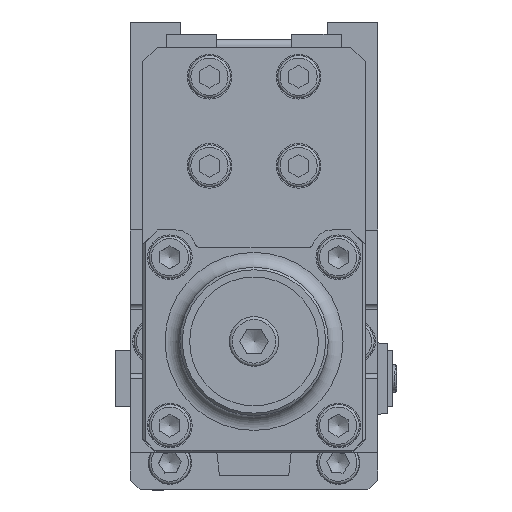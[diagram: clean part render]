
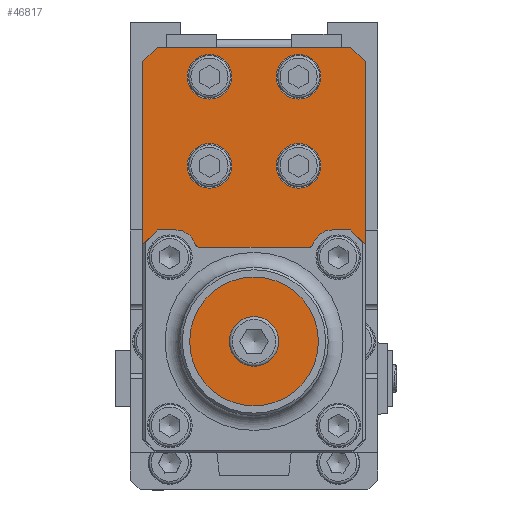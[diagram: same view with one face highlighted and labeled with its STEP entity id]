
A CAD part, front view. The second image highlights one B-rep face of the part: STEP entity #46817.
In plain terms, the highlighted planar face has unit normal (0, -1, 0) as drawn and (0, 0, -1) by its records, which use the part's own axes.
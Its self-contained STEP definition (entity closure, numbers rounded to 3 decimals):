
#1949=FACE_BOUND('',#8029,.T.);
#1950=FACE_BOUND('',#8030,.T.);
#1951=FACE_BOUND('',#8031,.T.);
#1952=FACE_BOUND('',#8032,.T.);
#1953=FACE_BOUND('',#8033,.T.);
#1954=FACE_BOUND('',#8034,.T.);
#1955=FACE_BOUND('',#8035,.T.);
#1956=FACE_BOUND('',#8036,.T.);
#1957=FACE_BOUND('',#8037,.T.);
#2387=PLANE('',#51329);
#5026=FACE_OUTER_BOUND('',#8028,.T.);
#8028=EDGE_LOOP('',(#33997,#33998,#33999,#34000,#34001,#34002,#34003,#34004));
#8029=EDGE_LOOP('',(#34005));
#8030=EDGE_LOOP('',(#34006));
#8031=EDGE_LOOP('',(#34007));
#8032=EDGE_LOOP('',(#34008));
#8033=EDGE_LOOP('',(#34009));
#8034=EDGE_LOOP('',(#34010));
#8035=EDGE_LOOP('',(#34011));
#8036=EDGE_LOOP('',(#34012));
#8037=EDGE_LOOP('',(#34013));
#11372=LINE('',#69425,#16287);
#11376=LINE('',#69433,#16291);
#11383=LINE('',#69447,#16298);
#11384=LINE('',#69449,#16299);
#11385=LINE('',#69451,#16300);
#11386=LINE('',#69453,#16301);
#11387=LINE('',#69455,#16302);
#11388=LINE('',#69456,#16303);
#16287=VECTOR('',#56148,10.);
#16291=VECTOR('',#56154,10.);
#16298=VECTOR('',#56163,10.);
#16299=VECTOR('',#56164,10.);
#16300=VECTOR('',#56165,10.);
#16301=VECTOR('',#56166,10.);
#16302=VECTOR('',#56167,10.);
#16303=VECTOR('',#56168,10.);
#21058=CIRCLE('',#51330,2.85);
#21059=CIRCLE('',#51331,2.85);
#21060=CIRCLE('',#51332,4.2);
#21061=CIRCLE('',#51333,2.65);
#21062=CIRCLE('',#51334,2.85);
#21063=CIRCLE('',#51335,2.85);
#21064=CIRCLE('',#51336,2.65);
#21065=CIRCLE('',#51337,2.65);
#21066=CIRCLE('',#51338,2.65);
#22461=VERTEX_POINT('',#69423);
#22462=VERTEX_POINT('',#69424);
#22465=VERTEX_POINT('',#69432);
#22471=VERTEX_POINT('',#69446);
#22472=VERTEX_POINT('',#69448);
#22473=VERTEX_POINT('',#69450);
#22474=VERTEX_POINT('',#69452);
#22475=VERTEX_POINT('',#69454);
#22476=VERTEX_POINT('',#69457);
#22477=VERTEX_POINT('',#69459);
#22478=VERTEX_POINT('',#69461);
#22479=VERTEX_POINT('',#69463);
#22480=VERTEX_POINT('',#69465);
#22481=VERTEX_POINT('',#69467);
#22482=VERTEX_POINT('',#69469);
#22483=VERTEX_POINT('',#69471);
#22484=VERTEX_POINT('',#69473);
#26690=EDGE_CURVE('',#22461,#22462,#11372,.T.);
#26694=EDGE_CURVE('',#22465,#22462,#11376,.T.);
#26701=EDGE_CURVE('',#22461,#22471,#11383,.T.);
#26702=EDGE_CURVE('',#22472,#22471,#11384,.T.);
#26703=EDGE_CURVE('',#22472,#22473,#11385,.T.);
#26704=EDGE_CURVE('',#22474,#22473,#11386,.T.);
#26705=EDGE_CURVE('',#22474,#22475,#11387,.T.);
#26706=EDGE_CURVE('',#22465,#22475,#11388,.T.);
#26707=EDGE_CURVE('',#22476,#22476,#21058,.T.);
#26708=EDGE_CURVE('',#22477,#22477,#21059,.T.);
#26709=EDGE_CURVE('',#22478,#22478,#21060,.T.);
#26710=EDGE_CURVE('',#22479,#22479,#21061,.T.);
#26711=EDGE_CURVE('',#22480,#22480,#21062,.T.);
#26712=EDGE_CURVE('',#22481,#22481,#21063,.T.);
#26713=EDGE_CURVE('',#22482,#22482,#21064,.T.);
#26714=EDGE_CURVE('',#22483,#22483,#21065,.T.);
#26715=EDGE_CURVE('',#22484,#22484,#21066,.T.);
#33997=ORIENTED_EDGE('',*,*,#26690,.F.);
#33998=ORIENTED_EDGE('',*,*,#26701,.T.);
#33999=ORIENTED_EDGE('',*,*,#26702,.F.);
#34000=ORIENTED_EDGE('',*,*,#26703,.T.);
#34001=ORIENTED_EDGE('',*,*,#26704,.F.);
#34002=ORIENTED_EDGE('',*,*,#26705,.T.);
#34003=ORIENTED_EDGE('',*,*,#26706,.F.);
#34004=ORIENTED_EDGE('',*,*,#26694,.T.);
#34005=ORIENTED_EDGE('',*,*,#26707,.T.);
#34006=ORIENTED_EDGE('',*,*,#26708,.T.);
#34007=ORIENTED_EDGE('',*,*,#26709,.T.);
#34008=ORIENTED_EDGE('',*,*,#26710,.T.);
#34009=ORIENTED_EDGE('',*,*,#26711,.T.);
#34010=ORIENTED_EDGE('',*,*,#26712,.T.);
#34011=ORIENTED_EDGE('',*,*,#26713,.T.);
#34012=ORIENTED_EDGE('',*,*,#26714,.T.);
#34013=ORIENTED_EDGE('',*,*,#26715,.T.);
#46817=ADVANCED_FACE('',(#5026,#1949,#1950,#1951,#1952,#1953,#1954,#1955,
#1956,#1957),#2387,.F.);
#51329=AXIS2_PLACEMENT_3D('',#69445,#56161,#56162);
#51330=AXIS2_PLACEMENT_3D('',#69458,#56169,#56170);
#51331=AXIS2_PLACEMENT_3D('',#69460,#56171,#56172);
#51332=AXIS2_PLACEMENT_3D('',#69462,#56173,#56174);
#51333=AXIS2_PLACEMENT_3D('',#69464,#56175,#56176);
#51334=AXIS2_PLACEMENT_3D('',#69466,#56177,#56178);
#51335=AXIS2_PLACEMENT_3D('',#69468,#56179,#56180);
#51336=AXIS2_PLACEMENT_3D('',#69470,#56181,#56182);
#51337=AXIS2_PLACEMENT_3D('',#69472,#56183,#56184);
#51338=AXIS2_PLACEMENT_3D('',#69474,#56185,#56186);
#56148=DIRECTION('',(0.707,-0.707,0.));
#56154=DIRECTION('',(-1.,0.,0.));
#56161=DIRECTION('center_axis',(0.,0.,1.));
#56162=DIRECTION('ref_axis',(1.,0.,0.));
#56163=DIRECTION('',(0.,1.,0.));
#56164=DIRECTION('',(-0.707,-0.707,0.));
#56165=DIRECTION('',(1.,0.,0.));
#56166=DIRECTION('',(-0.707,0.707,0.));
#56167=DIRECTION('',(0.,-1.,0.));
#56168=DIRECTION('',(0.707,0.707,0.));
#56169=DIRECTION('center_axis',(0.,0.,1.));
#56170=DIRECTION('ref_axis',(-1.,0.,0.));
#56171=DIRECTION('center_axis',(0.,0.,1.));
#56172=DIRECTION('ref_axis',(-1.,0.,0.));
#56173=DIRECTION('center_axis',(0.,0.,1.));
#56174=DIRECTION('ref_axis',(-1.,0.,0.));
#56175=DIRECTION('center_axis',(0.,0.,1.));
#56176=DIRECTION('ref_axis',(-1.,0.,0.));
#56177=DIRECTION('center_axis',(0.,0.,1.));
#56178=DIRECTION('ref_axis',(-1.,0.,0.));
#56179=DIRECTION('center_axis',(0.,0.,1.));
#56180=DIRECTION('ref_axis',(-1.,0.,0.));
#56181=DIRECTION('center_axis',(0.,0.,1.));
#56182=DIRECTION('ref_axis',(-1.,0.,0.));
#56183=DIRECTION('center_axis',(0.,0.,1.));
#56184=DIRECTION('ref_axis',(-1.,0.,0.));
#56185=DIRECTION('center_axis',(0.,0.,1.));
#56186=DIRECTION('ref_axis',(-1.,0.,0.));
#69423=CARTESIAN_POINT('',(-22.5,-37.975,-4.));
#69424=CARTESIAN_POINT('',(-19.5,-40.975,-4.));
#69425=CARTESIAN_POINT('',(-25.619,-34.856,-4.));
#69432=CARTESIAN_POINT('',(19.5,-40.975,-4.));
#69433=CARTESIAN_POINT('',(-22.5,-40.975,-4.));
#69445=CARTESIAN_POINT('Origin',(0.,0.,-4.));
#69446=CARTESIAN_POINT('',(-22.5,37.975,-4.));
#69447=CARTESIAN_POINT('',(-22.5,40.975,-4.));
#69448=CARTESIAN_POINT('',(-19.5,40.975,-4.));
#69449=CARTESIAN_POINT('',(-25.619,34.856,-4.));
#69450=CARTESIAN_POINT('',(19.5,40.975,-4.));
#69451=CARTESIAN_POINT('',(22.5,40.975,-4.));
#69452=CARTESIAN_POINT('',(22.5,37.975,-4.));
#69453=CARTESIAN_POINT('',(25.619,34.856,-4.));
#69454=CARTESIAN_POINT('',(22.5,-37.975,-4.));
#69455=CARTESIAN_POINT('',(22.5,-40.975,-4.));
#69456=CARTESIAN_POINT('',(25.619,-34.856,-4.));
#69457=CARTESIAN_POINT('',(11.85,-16.975,-4.));
#69458=CARTESIAN_POINT('Origin',(9.,-16.975,-4.));
#69459=CARTESIAN_POINT('',(11.85,-34.975,-4.));
#69460=CARTESIAN_POINT('Origin',(9.,-34.975,-4.));
#69461=CARTESIAN_POINT('',(4.2,18.475,-4.));
#69462=CARTESIAN_POINT('Origin',(0.,18.475,-4.));
#69463=CARTESIAN_POINT('',(19.65,1.475,-4.));
#69464=CARTESIAN_POINT('Origin',(17.,1.475,-4.));
#69465=CARTESIAN_POINT('',(-6.15,-16.975,-4.));
#69466=CARTESIAN_POINT('Origin',(-9.,-16.975,-4.));
#69467=CARTESIAN_POINT('',(-6.15,-34.975,-4.));
#69468=CARTESIAN_POINT('Origin',(-9.,-34.975,-4.));
#69469=CARTESIAN_POINT('',(19.65,35.475,-4.));
#69470=CARTESIAN_POINT('Origin',(17.,35.475,-4.));
#69471=CARTESIAN_POINT('',(-14.35,35.475,-4.));
#69472=CARTESIAN_POINT('Origin',(-17.,35.475,-4.));
#69473=CARTESIAN_POINT('',(-14.35,1.475,-4.));
#69474=CARTESIAN_POINT('Origin',(-17.,1.475,-4.));
